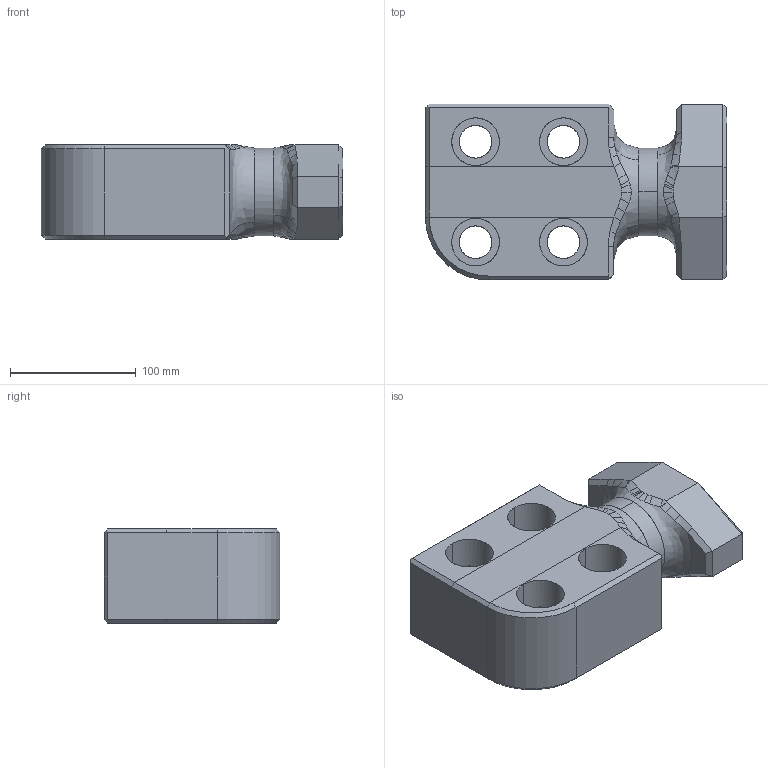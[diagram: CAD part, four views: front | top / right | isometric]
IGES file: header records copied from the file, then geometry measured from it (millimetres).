
Global section: file name: E:\UnigraphicsGraphicData\MISUMI_PRESS-PARTS\IGES\3d_chu70r_03573_r00.igs; native system: NX V5.0; preprocessor: UGS NX IGES V5.0; author: MISUMI; date: 20110105.160244; units: millimetre
Bounding box: 240 x 140 x 75 mm (x, y, z)
Surface area: 134659.7 mm2 (no closed solid volume)
Topology: 0 solids, 0 shells, 138 faces, 980 edges, 979 vertices
Faces by surface type: bspline 138
